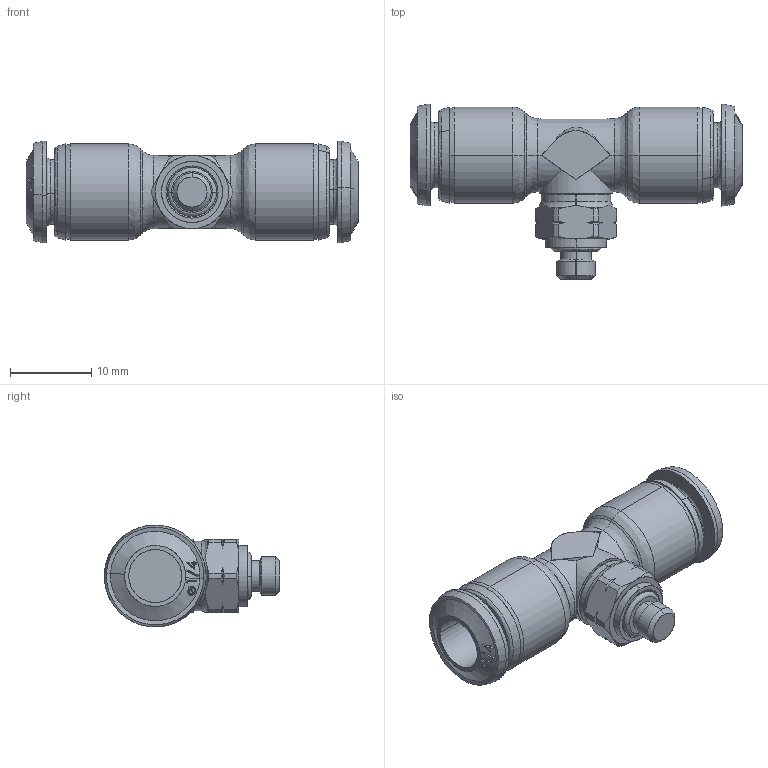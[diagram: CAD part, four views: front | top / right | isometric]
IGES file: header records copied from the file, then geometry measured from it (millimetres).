
Start section: SolidWorks IGES file using analytic representation for surfaces
Global section: file name: K:\Disegni Esecutivi\ALPHA TECHNOLOGIES\85000\Assiemi-85000\85216\IGES\8521600002A.IGS; native system: SolidWorks 2016; preprocessor: SolidWorks 2016; author: cad06; date: 200519.155925; units: millimetre
Bounding box: 40.8 x 21.55 x 12.5 mm (x, y, z)
Surface area: 2820.2 mm2 (no closed solid volume)
Topology: 0 solids, 0 shells, 254 faces, 2474 edges, 2474 vertices
Faces by surface type: bspline 141, revolution 113
